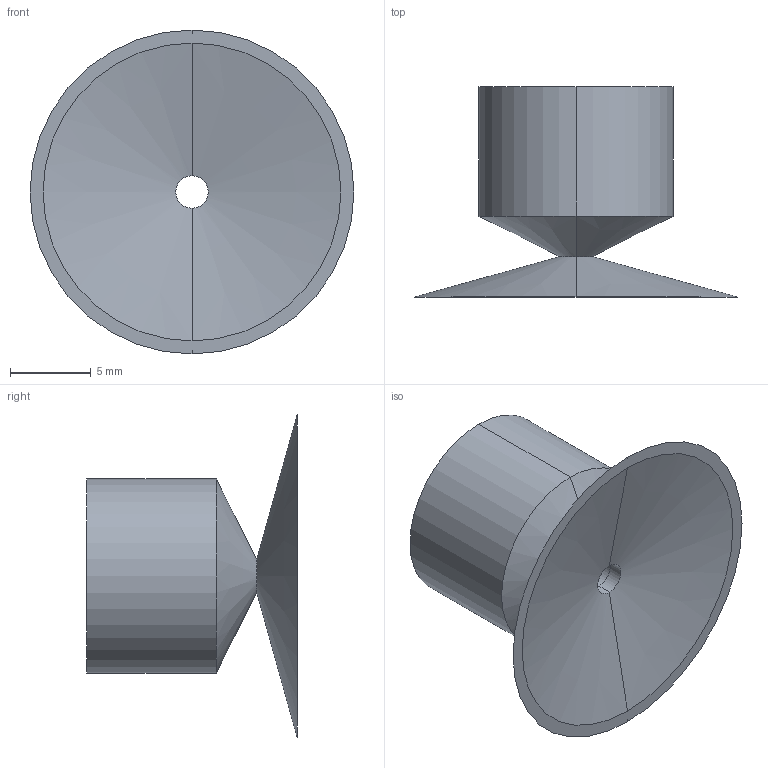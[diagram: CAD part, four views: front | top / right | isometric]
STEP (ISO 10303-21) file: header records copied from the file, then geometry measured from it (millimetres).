
FILE_DESCRIPTION (( 'STEP AP214' ), '1' );
FILE_NAME ('VSH-S20.STEP', '2019-11-30T08:37:32', ( '微软用户' ), ( '微软中国' ), 'SwSTEP 2.0', 'SolidWorks 2016', '' );
FILE_SCHEMA (( 'AUTOMOTIVE_DESIGN' ));
Length unit declared in the file: millimetre
Products named in the file (1): VSH-S20
Bounding box: 20 x 13 x 20 mm (x, y, z)
Volume: 972 mm3; surface area: 1345.9 mm2
Topology: 2 solids, 2 shells, 20 faces, 40 edges, 24 vertices
Faces by surface type: cylinder 10, cone 6, plane 4
Entity records: 575 total; most frequent: DIRECTION 106, CARTESIAN_POINT 85, ORIENTED_EDGE 80, AXIS2_PLACEMENT_3D 45, EDGE_CURVE 40, CIRCLE 24, VERTEX_POINT 24, EDGE_LOOP 24
